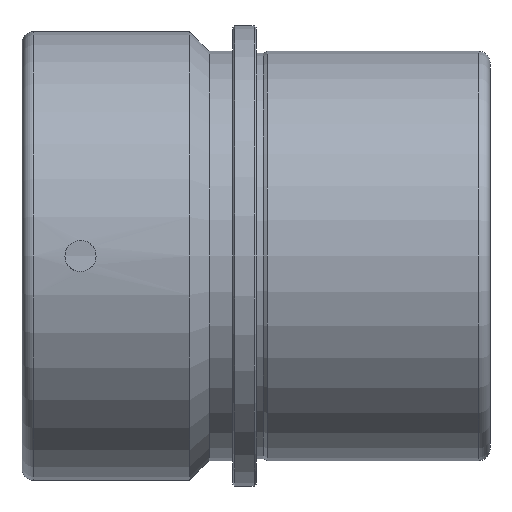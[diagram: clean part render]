
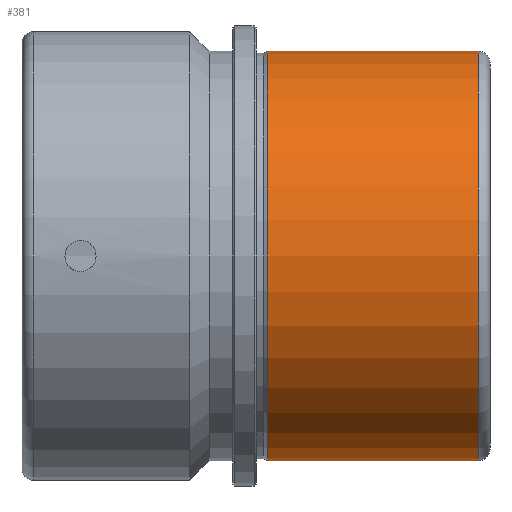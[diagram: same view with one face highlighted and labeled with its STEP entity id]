
A CAD part, front view. The second image highlights one B-rep face of the part: STEP entity #381.
In plain terms, the highlighted cylindrical face has radius 52.5 mm (diameter 105 mm), a full revolution.
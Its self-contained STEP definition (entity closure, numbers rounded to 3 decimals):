
#29=CIRCLE('',#426,52.5);
#30=CIRCLE('',#427,52.5);
#31=CIRCLE('',#429,52.5);
#59=FACE_OUTER_BOUND('',#81,.T.);
#81=EDGE_LOOP('',(#249,#250,#251,#252,#253));
#106=LINE('',#679,#124);
#124=VECTOR('',#487,52.5);
#157=VERTEX_POINT('',#672);
#158=VERTEX_POINT('',#674);
#159=VERTEX_POINT('',#678);
#191=EDGE_CURVE('',#157,#158,#29,.T.);
#192=EDGE_CURVE('',#158,#157,#30,.T.);
#193=EDGE_CURVE('',#158,#159,#106,.T.);
#194=EDGE_CURVE('',#159,#159,#31,.T.);
#249=ORIENTED_EDGE('',*,*,#192,.F.);
#250=ORIENTED_EDGE('',*,*,#193,.T.);
#251=ORIENTED_EDGE('',*,*,#194,.T.);
#252=ORIENTED_EDGE('',*,*,#193,.F.);
#253=ORIENTED_EDGE('',*,*,#191,.F.);
#346=CYLINDRICAL_SURFACE('',#428,52.5);
#381=ADVANCED_FACE('',(#59),#346,.T.);
#426=AXIS2_PLACEMENT_3D('',#675,#481,#482);
#427=AXIS2_PLACEMENT_3D('',#676,#483,#484);
#428=AXIS2_PLACEMENT_3D('',#677,#485,#486);
#429=AXIS2_PLACEMENT_3D('',#680,#488,#489);
#481=DIRECTION('center_axis',(1.,0.,0.));
#482=DIRECTION('ref_axis',(0.,-1.,0.));
#483=DIRECTION('center_axis',(1.,0.,0.));
#484=DIRECTION('ref_axis',(0.,-1.,0.));
#485=DIRECTION('center_axis',(1.,0.,0.));
#486=DIRECTION('ref_axis',(0.,1.,0.));
#487=DIRECTION('',(-1.,0.,0.));
#488=DIRECTION('center_axis',(1.,0.,0.));
#489=DIRECTION('ref_axis',(0.,0.,-1.));
#672=CARTESIAN_POINT('',(117.,0.,52.5));
#674=CARTESIAN_POINT('',(117.,-52.5,0.));
#675=CARTESIAN_POINT('Origin',(117.,0.,0.));
#676=CARTESIAN_POINT('Origin',(117.,0.,0.));
#677=CARTESIAN_POINT('Origin',(91.45,0.,0.));
#678=CARTESIAN_POINT('',(62.9,-52.5,0.));
#679=CARTESIAN_POINT('',(91.45,-52.5,0.));
#680=CARTESIAN_POINT('Origin',(62.9,0.,0.));
